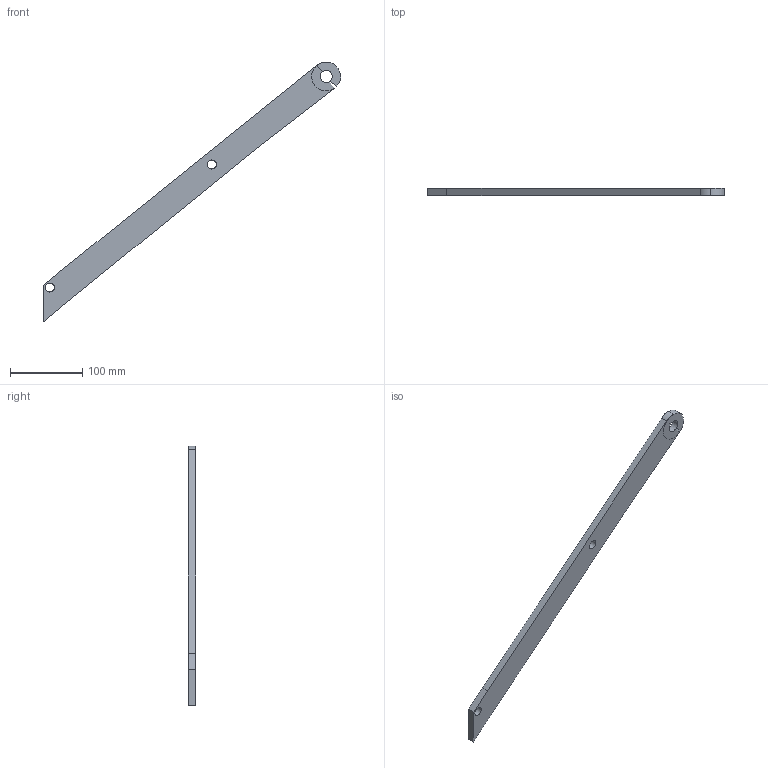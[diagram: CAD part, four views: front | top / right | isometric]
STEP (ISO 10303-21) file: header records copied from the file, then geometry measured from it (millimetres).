
FILE_DESCRIPTION(('Open CASCADE Model'),'2;1');
FILE_NAME('Open CASCADE Shape Model','2026-10-20T13:19:34',('Author'),( 'Open CASCADE'),'Open CASCADE STEP processor 7.9','Open CASCADE 7.9' ,'Unknown');
FILE_SCHEMA(('AUTOMOTIVE_DESIGN { 1 0 10303 214 1 1 1 1 }'));
Length unit declared in the file: millimetre
Products named in the file (1): Open CASCADE STEP translator 7.9 1
Bounding box: 411.98 x 10 x 360.29 mm (x, y, z)
Volume: 194720.3 mm3; surface area: 51456.7 mm2
Topology: 1 solids, 1 shells, 17 faces, 47 edges, 30 vertices
Faces by surface type: plane 12, cylinder 5
Full cylindrical faces by diameter (mm): 12.5 x2, 17 x1
Entity records: 1204 total; most frequent: CARTESIAN_POINT 253, DIRECTION 179, LINE 103, VECTOR 103, ORIENTED_EDGE 94, PCURVE 94, DEFINITIONAL_REPRESENTATION 94, EDGE_CURVE 47
